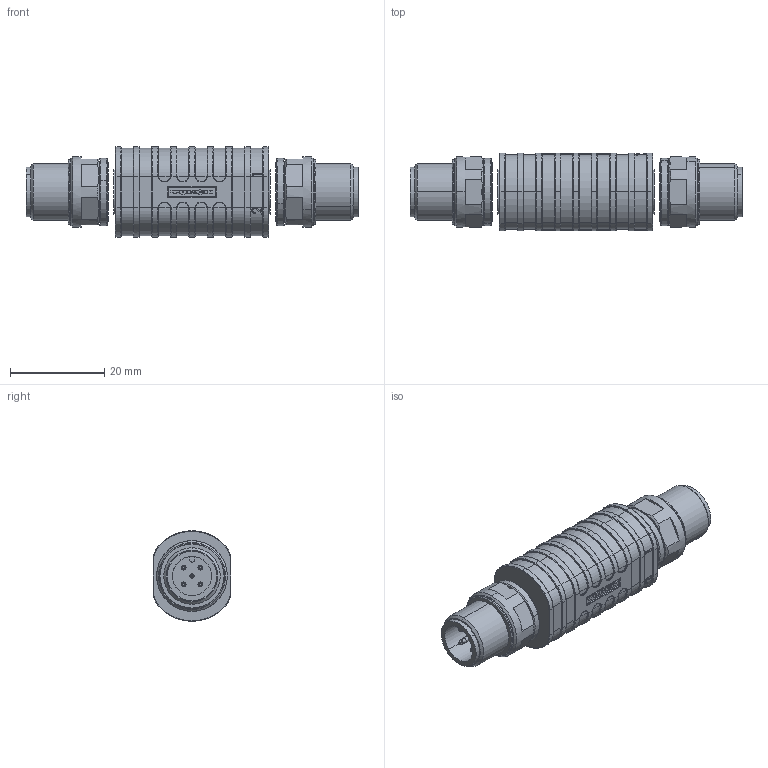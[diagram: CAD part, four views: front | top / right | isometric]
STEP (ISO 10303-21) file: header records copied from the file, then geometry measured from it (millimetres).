
FILE_DESCRIPTION (( 'STEP AP203' ), '1' );
FILE_NAME ('6628076 AD-FSM4.5-FSM4.5.STEP', '2017-08-01T07:17:09', ( 'User' ), ( '' ), 'SwSTEP 2.0', 'SolidWorks 2016', '' );
FILE_SCHEMA (( 'CONFIG_CONTROL_DESIGN' ));
Length unit declared in the file: millimetre
Products named in the file (1): 6628076 AD-FSM4.5-FSM4.5
Bounding box: 70.5 x 16.5 x 19.2 mm (x, y, z)
Surface area: 5305.6 mm2 (no closed solid volume)
Topology: 0 solids, 19 shells, 693 faces, 1758 edges, 1100 vertices
Faces by surface type: cylinder 235, plane 177, torus 166, bspline 65, cone 50
Entity records: 23173 total; most frequent: CARTESIAN_POINT 6389, DIRECTION 3714, ORIENTED_EDGE 3406, EDGE_CURVE 1758, AXIS2_PLACEMENT_3D 1561, VERTEX_POINT 1100, CIRCLE 932, EDGE_LOOP 723
